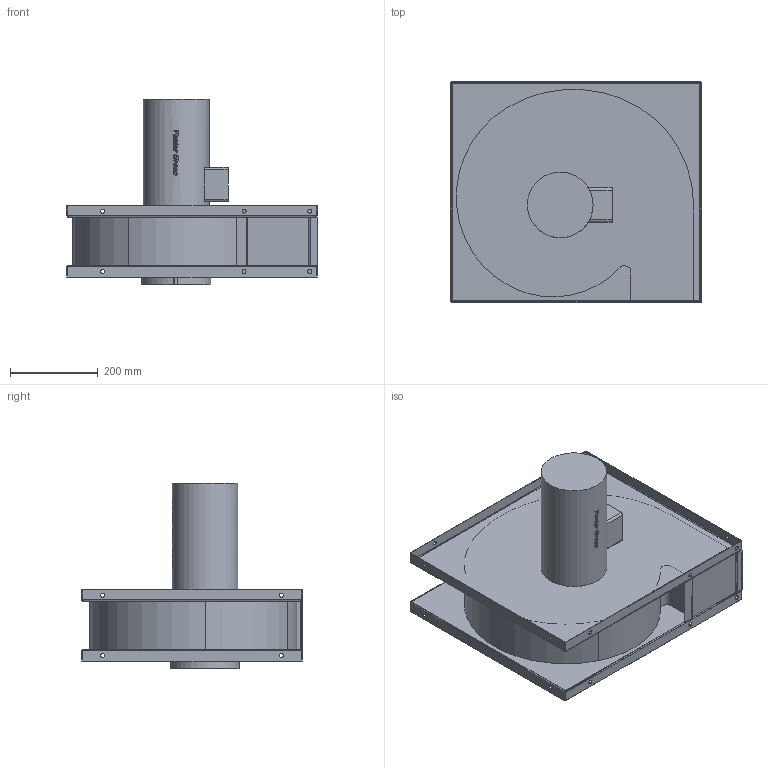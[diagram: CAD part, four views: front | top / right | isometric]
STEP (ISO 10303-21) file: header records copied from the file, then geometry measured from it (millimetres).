
FILE_DESCRIPTION(/* description */ (''),/* implementation_level */ '2;1');
FILE_NAME(/* name */ 'T:\BAZA\BAZA\Modele uproszczone\GMT\GMT_200_110_RD90_42551780\GMT_200_110_RD90_42551780.stp',/* time_stamp */ '2016-08-17T15:41:17+02:00',/* author */ ('tomaszm'),/* organization */ (''),/* preprocessor_version */ 'ST-DEVELOPER v16.5',/* originating_system */ 'Autodesk Inventor 2017',/* authorisation */ '');
FILE_SCHEMA (('AUTOMOTIVE_DESIGN { 1 0 10303 214 3 1 1 }'));
Length unit declared in the file: centimetre
Products named in the file (1): GMT-200-110
Bounding box: 571 x 503 x 423.3 mm (x, y, z)
Volume: 29527097.2 mm3; surface area: 1326097.7 mm2
Topology: 1 solids, 1 shells, 616 faces, 1753 edges, 1170 vertices
Faces by surface type: bspline 290, plane 235, cylinder 89, torus 2
Full cylindrical faces by diameter (mm): 9.2 x18, 149.9 x1
Entity records: 24861 total; most frequent: CARTESIAN_POINT 10451, ORIENTED_EDGE 3462, DIRECTION 2021, EDGE_CURVE 1731, VERTEX_POINT 1168, LINE 857, VECTOR 857, EDGE_LOOP 707
